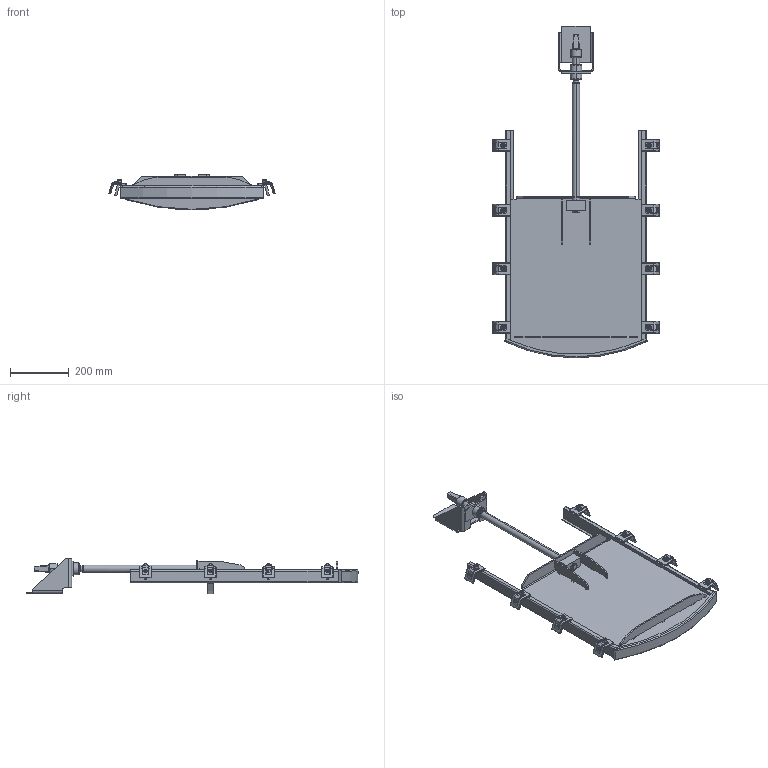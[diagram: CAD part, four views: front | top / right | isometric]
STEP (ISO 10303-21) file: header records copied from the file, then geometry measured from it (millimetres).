
FILE_DESCRIPTION (( 'STEP AP214' ), '1' );
FILE_NAME ('LW 400 Schacht1500 betoniert.STEP', '2022-05-20T09:24:37', ( '' ), ( '' ), 'SwSTEP 2.0', 'SolidWorks 2021', '' );
FILE_SCHEMA (( 'AUTOMOTIVE_DESIGN' ));
Length unit declared in the file: millimetre
Products named in the file (1): LW 400 Schacht1500 betoniert
Bounding box: 569.33 x 1135 x 122.1 mm (x, y, z)
Volume: 3865104.3 mm3; surface area: 1154653.9 mm2
Topology: 1 solids, 9 shells, 1347 faces, 3212 edges, 1810 vertices
Faces by surface type: cylinder 538, plane 389, cone 118, sphere 112, torus 104, bspline 86
Entity records: 56647 total; most frequent: CARTESIAN_POINT 11832, DIRECTION 6470, ORIENTED_EDGE 6192, EDGE_CURVE 3096, AXIS2_PLACEMENT_3D 2552, VERTEX_POINT 1794, EDGE_LOOP 1444, LINE 1366
